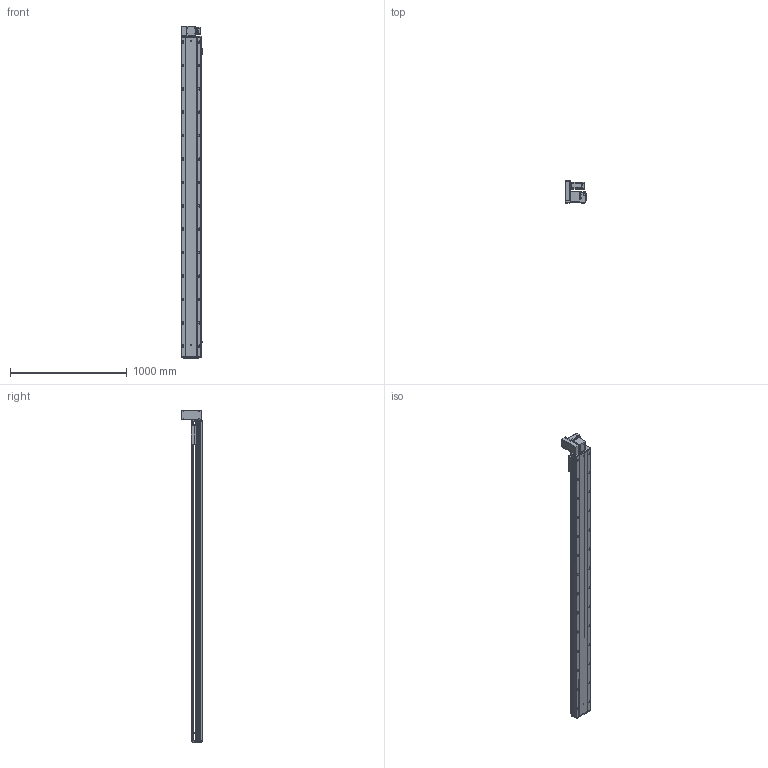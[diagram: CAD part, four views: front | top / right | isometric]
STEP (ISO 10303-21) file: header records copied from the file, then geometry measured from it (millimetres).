
FILE_DESCRIPTION (( 'STEP AP203' ), '1' );
FILE_NAME ('RY170-T-300-UL-P400W.SLDASM_2450.step', '2021-03-02T02:15:07', ( '盈信电脑' ), ( '东莞市道滘镇水果街19号' ), 'SwSTEP 2.0', 'SolidWorks 2012', '' );
FILE_SCHEMA (( 'CONFIG_CONTROL_DESIGN' ));
Products named in the file (18): RY170-T-300-UL-P400W.SLDASM_2450; 15; RY170-T蹟翐M4; RY170肮祭謫萇儂欶; RY170同步轮电机安装板(400W); RY120-T主同步轮轴承压盖; 滅袉蝶18-10; RY170-T肮祭謫裔啣; RY170-T肮祭湍揤踡輸1; RY170-T肮祭湍揤踡輸2; RY170外置感应片(200共用）; 覜茼ん672; RY170翋肮祭謫釱; RY170肮祭謫ヶ裔啣; RY170肮祭湍臏賑輸; RY170-T-300肮祭謫倰第裔啣-DL_2450; RY170綴裔啣; RY170-T-300肮祭謫倰第菁釱-DL_2450
Assembly tree (20 placements, depth 2):
  RY170-T-300-UL-P400W.SLDASM_2450
    RY170-T-300肮祭謫倰第菁釱-DL_2450
    RY170肮祭湍臏賑輸
    RY170-T-300肮祭謫倰第裔啣-DL_2450
    RY170綴裔啣
    覜茼ん672  x3
    RY170外置感应片(200共用）
    RY170肮祭謫ヶ裔啣
    RY170翋肮祭謫釱
    RY170-T肮祭湍揤踡輸1
    RY170-T肮祭湍揤踡輸2
    RY170-T肮祭謫裔啣
    滅袉蝶18-10  x2
    RY120-T主同步轮轴承压盖
    RY170肮祭謫萇儂欶
    RY170同步轮电机安装板(400W)
    RY170-T蹟翐M4
    15
Bounding box: 183.7 x 184 x 2838 mm (x, y, z)
Volume: 12922872.6 mm3; surface area: 4463128.9 mm2
Topology: 20 solids, 20 shells, 2953 faces, 8362 edges, 5303 vertices
Faces by surface type: cylinder 1428, plane 1159, cone 336, bspline 30
Entity records: 96264 total; most frequent: CARTESIAN_POINT 22773, ORIENTED_EDGE 15168, DIRECTION 14688, EDGE_CURVE 7584, AXIS2_PLACEMENT_3D 5240, VERTEX_POINT 4971, LINE 4208, VECTOR 4208
